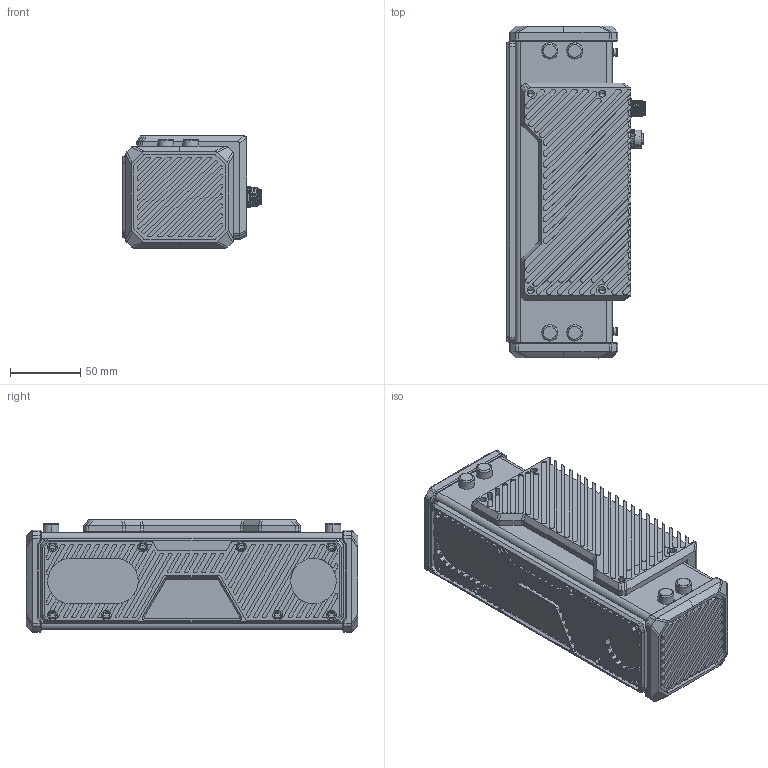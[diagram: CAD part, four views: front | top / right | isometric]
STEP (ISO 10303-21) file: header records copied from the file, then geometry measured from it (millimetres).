
FILE_DESCRIPTION((''),'2;1');
FILE_NAME('00-300P-V2-CASE_202406201422','2024-06-20T14:23:33',('guodanfeng'),(''),'CREO PARAMETRIC BY PTC INC, 2020044','CREO PARAMETRIC BY PTC INC, 2020044','');
FILE_SCHEMA(('AUTOMOTIVE_DESIGN { 1 0 10303 214 1 1 1 1 }'));
Products named in the file (1): 00-300P-V2-CASE_202406201422
Bounding box: 98.5 x 236.27 x 79.8 mm (x, y, z)
Surface area: 183505.4 mm2 (no closed solid volume)
Topology: 0 solids, 71 shells, 2204 faces, 6936 edges, 4808 vertices
Faces by surface type: plane 1130, cylinder 808, cone 150, bspline 52, torus 36, extrusion 28
Entity records: 113811 total; most frequent: CARTESIAN_POINT 28642, DIRECTION 12940, ORIENTED_EDGE 12798, PRESENTATION_STYLE_ASSIGNMENT 7255, STYLED_ITEM 6949, CURVE_STYLE 6916, EDGE_CURVE 6916, VERTEX_POINT 4808
